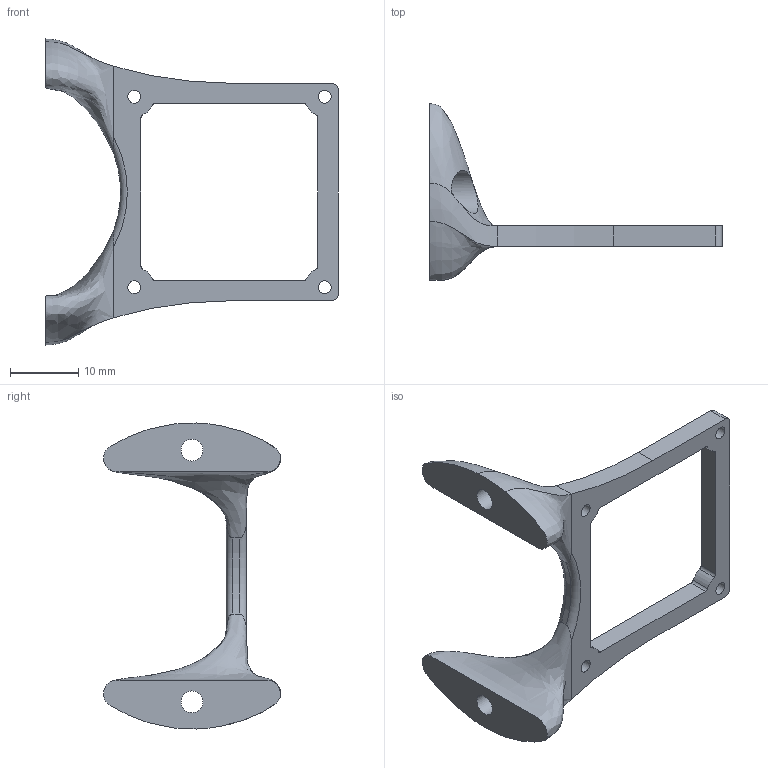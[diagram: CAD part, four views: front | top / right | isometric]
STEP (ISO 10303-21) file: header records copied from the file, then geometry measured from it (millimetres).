
FILE_DESCRIPTION(/* description */ (''),/* implementation_level */ '2;1');
FILE_NAME(/* name */ '',/* time_stamp */ '2026-01-25T17:06:56+08:00',/* author */ (''),/* organization */ (''),/* preprocessor_version */ 'ST-DEVELOPER v20.1',/* originating_system */ 'Autodesk Translation Framework v14.24.0.0',/* authorisation */ '');
FILE_SCHEMA (('AUTOMOTIVE_DESIGN { 1 0 10303 214 3 1 1 }','MODEL_BASED_INTEGRATED_MANUFACTURING_SCHEMA'));
Length unit declared in the file: millimetre
Products named in the file (1): 摄像头支架
Bounding box: 43 x 26 x 44.98 mm (x, y, z)
Volume: 2805.9 mm3; surface area: 2926.4 mm2
Topology: 1 solids, 1 shells, 44 faces, 122 edges, 80 vertices
Faces by surface type: cylinder 25, plane 13, bspline 4, torus 2
Full cylindrical faces by diameter (mm): 1.9 x4, 3.2 x2, 6.4 x2
Entity records: 4185 total; most frequent: CARTESIAN_POINT 2986, ORIENTED_EDGE 244, DIRECTION 238, EDGE_CURVE 122, AXIS2_PLACEMENT_3D 93, VERTEX_POINT 80, EDGE_LOOP 58, LINE 52
